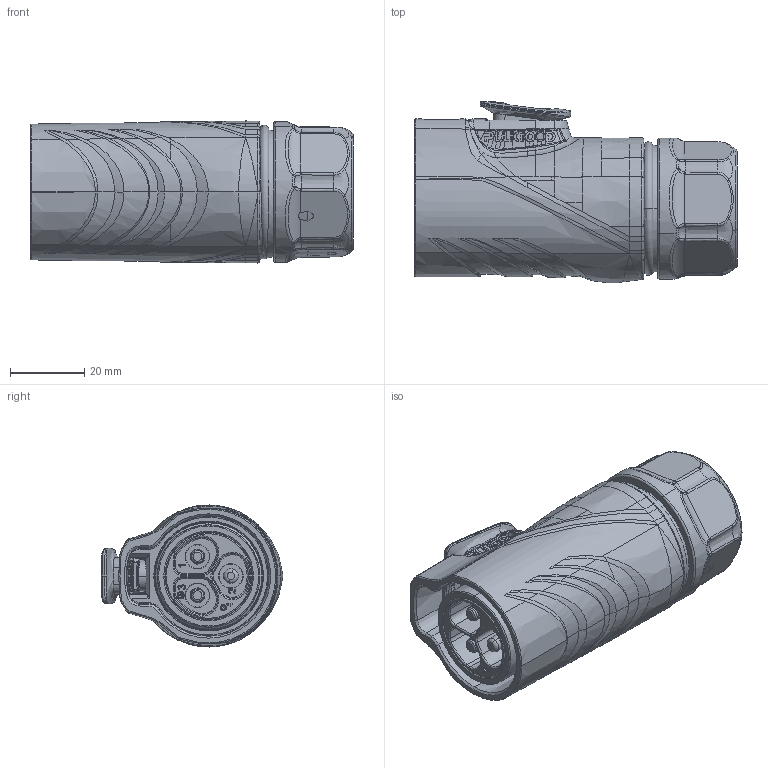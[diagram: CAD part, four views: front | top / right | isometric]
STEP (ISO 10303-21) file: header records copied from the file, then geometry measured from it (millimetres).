
FILE_DESCRIPTION (( 'STEP AP203' ), '1' );
FILE_NAME ('PLG28 3+1芯直头插头正装半金属(常规款).STEP', '2026-06-06T02:43:16', ( '微软用户' ), ( '微软中国' ), 'SwSTEP 2.0', 'SolidWorks 2024', '' );
FILE_SCHEMA (( 'CONFIG_CONTROL_DESIGN' ));
Products named in the file (1): PLG28 3+1芯直头插头正装半金属(常规款)
Bounding box: 87 x 49.02 x 38.3 mm (x, y, z)
Volume: 88465.7 mm3; surface area: 25527.9 mm2
Topology: 2 solids, 4 shells, 1394 faces, 3634 edges, 2273 vertices
Faces by surface type: bspline 600, plane 313, cylinder 248, torus 131, cone 82, sphere 20
Entity records: 130789 total; most frequent: CARTESIAN_POINT 102035, ORIENTED_EDGE 7242, DIRECTION 4024, EDGE_CURVE 3621, VERTEX_POINT 2273, B_SPLINE_CURVE_WITH_KNOTS 1806, AXIS2_PLACEMENT_3D 1529, EDGE_LOOP 1446
